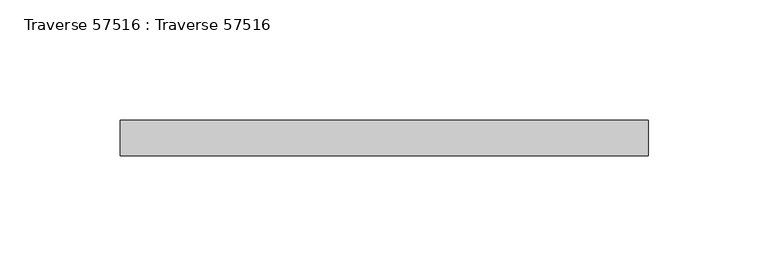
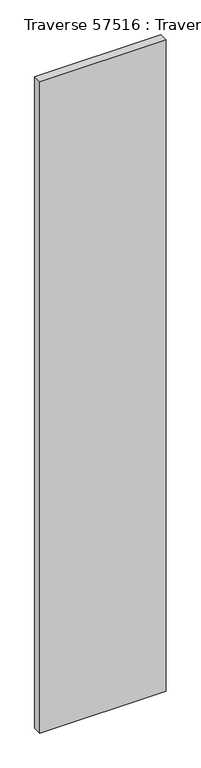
"""IFC4 building model written with IfcOpenShell, lengths in millimetres: beam geometry, Traverse 57516 : Traverse 57516."""

from ifc_helpers import new_model, si_unit, frame, origin, place, context, project, spatial, polyline, outline, extrude, source, transform, mapped, element, save


def traverse_57516_traverse_57516_5519c754(model_context):
    return source(origin(), model_context, "Body", "SweptSolid", [
        extrude(outline(polyline([(109.9999999, -33781.0), (109.9999999, -33796.0), (-110.0000001, -33796.0), (-110.0000001, -33781.0), (109.9999999, -33781.0)])), frame((0.0, 0.0, 6830.14), z_axis=(0.0, 0.0, 1.0), x_axis=(1.0, 0.0, 0.0)), (0.0, 0.0, 1.0), 1200.0),
    ])


if __name__ == "__main__":
    model = new_model("IFC4")
    model_context = context("Model", 3, world=origin())
    ifc_project = project(units=[si_unit("LENGTHUNIT", "METRE", prefix="MILLI")], contexts=[model_context])
    site = spatial("IfcSite", under=ifc_project)
    building = spatial("IfcBuilding", under=site)
    placement = place(None, origin())
    traverse_57516_traverse_57516_shape = traverse_57516_traverse_57516_5519c754(model_context)
    element("IfcBeam", 1, ObjectType="Traverse 57516 : Traverse 57516", at=placement, inside=building, context=model_context, shape_type="MappedRepresentation", body=[
        mapped(traverse_57516_traverse_57516_shape, transform((0.0, 0.0, 0.0), x_axis=(1.0, 0.0, 0.0), y_axis=(0.0, 1.0, 0.0), z_axis=(0.0, 0.0, 1.0))),
    ])
    save(model, "model.ifc")
